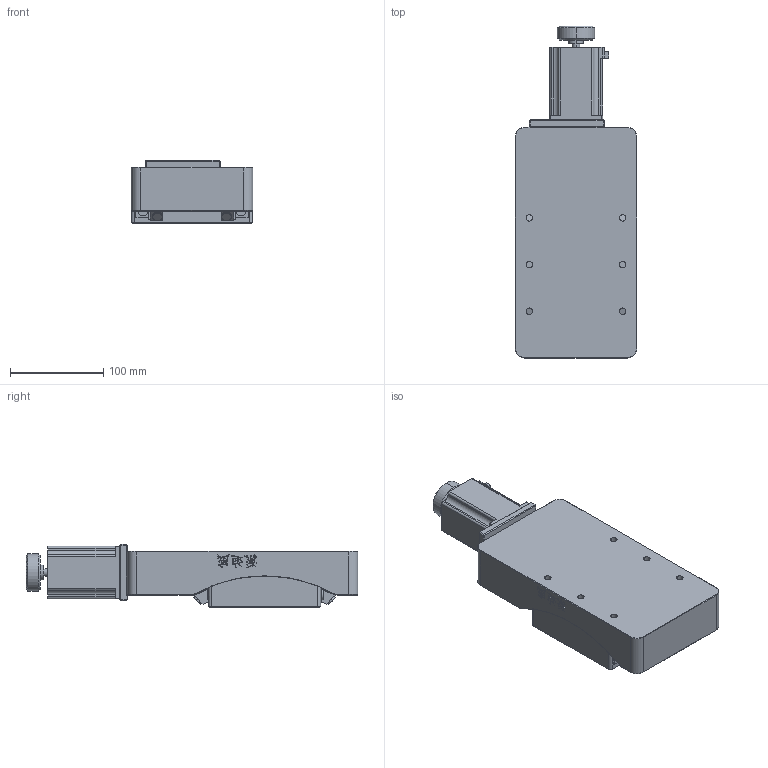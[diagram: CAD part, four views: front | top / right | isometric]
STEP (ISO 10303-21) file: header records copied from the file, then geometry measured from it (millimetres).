
FILE_DESCRIPTION (( 'STEP AP203' ), '1' );
FILE_NAME ('PT - GD306.STEP', '2022-08-21T06:35:20', ( '' ), ( '' ), 'SwSTEP 2.0', 'SolidWorks 2020', '' );
FILE_SCHEMA (( 'CONFIG_CONTROL_DESIGN' ));
Length unit declared in the file: millimetre
Products named in the file (6): ZJ120-10 ____-0^PT - GD306; PT - GD306; ZJ120-10________-1^PT - GD306; ZJ120-10 ____^PT - GD306; ZJ120-10________^PT - GD306; 57____^PT - GD306
Assembly tree (7 placements, depth 2):
  PT - GD306
    ZJ120-10 ____^PT - GD306
    ZJ120-10 ____-0^PT - GD306
    57____^PT - GD306
    ZJ120-10________^PT - GD306  x2
    ZJ120-10________-1^PT - GD306  x2
Bounding box: 130 x 355.5 x 67.5 mm (x, y, z)
Volume: 1906363.3 mm3; surface area: 218929.2 mm2
Topology: 7 solids, 7 shells, 574 faces, 1468 edges, 929 vertices
Faces by surface type: plane 245, cylinder 186, bspline 81, cone 62
Entity records: 22296 total; most frequent: CARTESIAN_POINT 8849, ORIENTED_EDGE 2728, DIRECTION 2436, EDGE_CURVE 1364, VERTEX_POINT 887, VECTOR 816, LINE 816, AXIS2_PLACEMENT_3D 810
